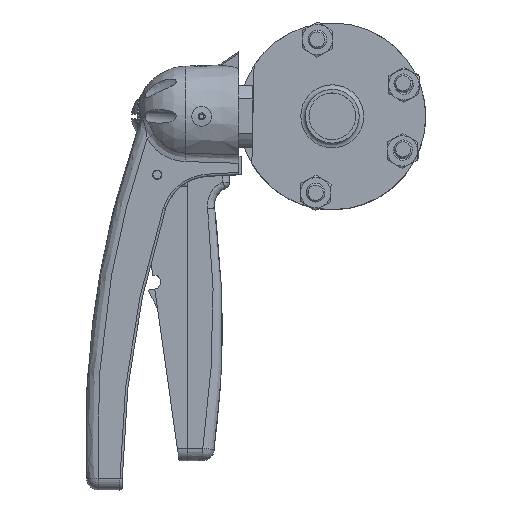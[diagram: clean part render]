
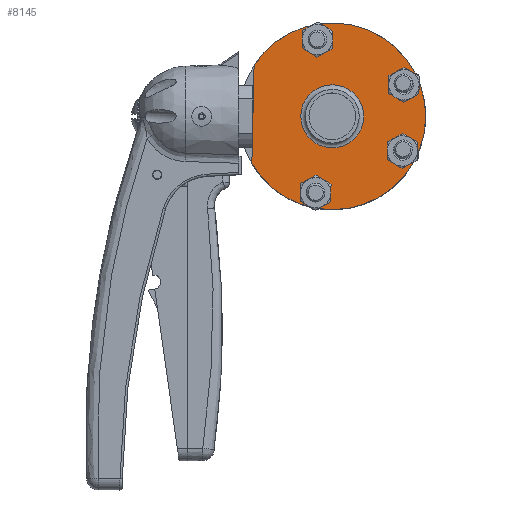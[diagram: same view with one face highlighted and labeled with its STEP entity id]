
A CAD part, top view. The second image highlights one B-rep face of the part: STEP entity #8145.
In plain terms, the highlighted planar face has unit normal (0, 0, 1).
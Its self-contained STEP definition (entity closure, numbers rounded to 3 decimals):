
#913=FACE_BOUND('',#1681,.T.);
#914=FACE_BOUND('',#1682,.T.);
#915=FACE_BOUND('',#1683,.T.);
#916=FACE_BOUND('',#1684,.T.);
#917=FACE_BOUND('',#1685,.T.);
#961=PLANE('',#8822);
#1191=FACE_OUTER_BOUND('',#1680,.T.);
#1680=EDGE_LOOP('',(#5719,#5720));
#1681=EDGE_LOOP('',(#5721));
#1682=EDGE_LOOP('',(#5722));
#1683=EDGE_LOOP('',(#5723));
#1684=EDGE_LOOP('',(#5724));
#1685=EDGE_LOOP('',(#5725));
#2194=LINE('',#11733,#2769);
#2769=VECTOR('',#9651,10.);
#3338=CIRCLE('',#8799,4.25);
#3340=CIRCLE('',#8802,4.25);
#3342=CIRCLE('',#8805,4.25);
#3344=CIRCLE('',#8808,4.25);
#3351=CIRCLE('',#8819,13.5);
#3353=CIRCLE('',#8823,40.);
#3653=VERTEX_POINT('',#11705);
#3655=VERTEX_POINT('',#11711);
#3657=VERTEX_POINT('',#11717);
#3659=VERTEX_POINT('',#11723);
#3661=VERTEX_POINT('',#11729);
#3663=VERTEX_POINT('',#11732);
#3668=VERTEX_POINT('',#11748);
#4430=EDGE_CURVE('',#3653,#3653,#3338,.T.);
#4433=EDGE_CURVE('',#3655,#3655,#3340,.T.);
#4436=EDGE_CURVE('',#3657,#3657,#3342,.T.);
#4439=EDGE_CURVE('',#3659,#3659,#3344,.T.);
#4443=EDGE_CURVE('',#3663,#3661,#2194,.T.);
#4452=EDGE_CURVE('',#3668,#3668,#3351,.T.);
#4455=EDGE_CURVE('',#3661,#3663,#3353,.T.);
#5719=ORIENTED_EDGE('',*,*,#4443,.T.);
#5720=ORIENTED_EDGE('',*,*,#4455,.T.);
#5721=ORIENTED_EDGE('',*,*,#4430,.T.);
#5722=ORIENTED_EDGE('',*,*,#4433,.T.);
#5723=ORIENTED_EDGE('',*,*,#4436,.T.);
#5724=ORIENTED_EDGE('',*,*,#4439,.T.);
#5725=ORIENTED_EDGE('',*,*,#4452,.F.);
#8145=ADVANCED_FACE('',(#1191,#913,#914,#915,#916,#917),#961,.T.);
#8799=AXIS2_PLACEMENT_3D('',#11706,#9622,#9623);
#8802=AXIS2_PLACEMENT_3D('',#11712,#9629,#9630);
#8805=AXIS2_PLACEMENT_3D('',#11718,#9636,#9637);
#8808=AXIS2_PLACEMENT_3D('',#11724,#9643,#9644);
#8819=AXIS2_PLACEMENT_3D('',#11750,#9671,#9672);
#8822=AXIS2_PLACEMENT_3D('',#11755,#9678,#9679);
#8823=AXIS2_PLACEMENT_3D('',#11756,#9680,#9681);
#9622=DIRECTION('center_axis',(0.,0.,-1.));
#9623=DIRECTION('ref_axis',(1.,0.,0.));
#9629=DIRECTION('center_axis',(0.,0.,-1.));
#9630=DIRECTION('ref_axis',(1.,0.,0.));
#9636=DIRECTION('center_axis',(0.,0.,-1.));
#9637=DIRECTION('ref_axis',(1.,0.,0.));
#9643=DIRECTION('center_axis',(0.,0.,-1.));
#9644=DIRECTION('ref_axis',(1.,0.,0.));
#9651=DIRECTION('',(-1.,0.,0.));
#9671=DIRECTION('center_axis',(0.,0.,1.));
#9672=DIRECTION('ref_axis',(-1.,0.,0.));
#9678=DIRECTION('center_axis',(0.,0.,1.));
#9679=DIRECTION('ref_axis',(1.,0.,0.));
#9680=DIRECTION('center_axis',(0.,0.,1.));
#9681=DIRECTION('ref_axis',(-1.,0.,0.));
#11705=CARTESIAN_POINT('',(28.481,7.136,10.));
#11706=CARTESIAN_POINT('Origin',(32.731,7.136,10.));
#11711=CARTESIAN_POINT('',(-18.408,-30.361,10.));
#11712=CARTESIAN_POINT('Origin',(-14.158,-30.361,10.));
#11717=CARTESIAN_POINT('',(9.908,-30.361,10.));
#11718=CARTESIAN_POINT('Origin',(14.158,-30.361,10.));
#11723=CARTESIAN_POINT('',(-37.135,6.392,10.));
#11724=CARTESIAN_POINT('Origin',(-32.885,6.392,10.));
#11729=CARTESIAN_POINT('',(-21.071,34.,10.));
#11732=CARTESIAN_POINT('',(21.071,34.,10.));
#11733=CARTESIAN_POINT('',(15.299,34.,10.));
#11748=CARTESIAN_POINT('',(13.5,0.,10.));
#11750=CARTESIAN_POINT('Origin',(0.,0.,10.));
#11755=CARTESIAN_POINT('Origin',(0.,0.,10.));
#11756=CARTESIAN_POINT('Origin',(0.,0.,10.));
